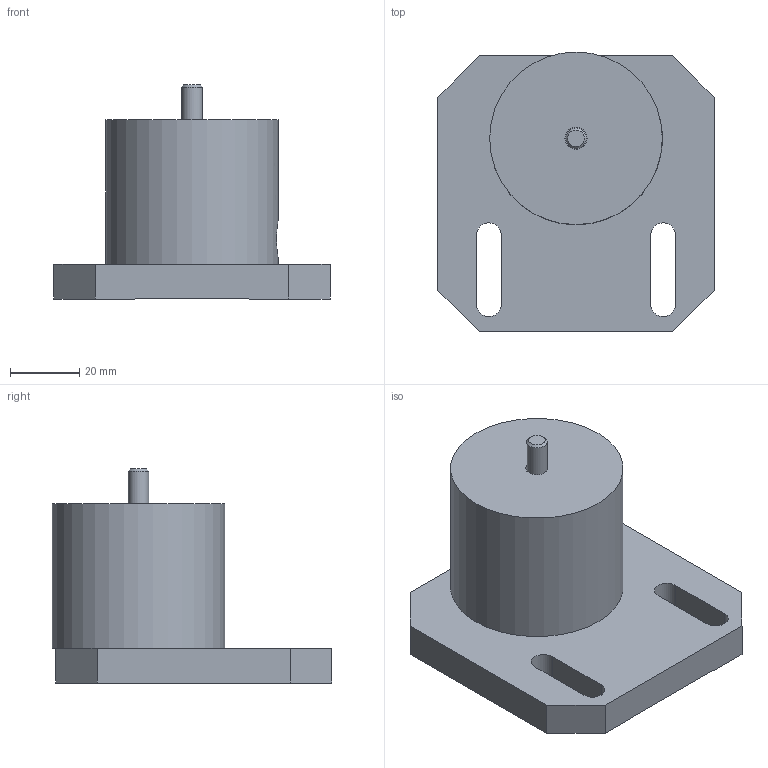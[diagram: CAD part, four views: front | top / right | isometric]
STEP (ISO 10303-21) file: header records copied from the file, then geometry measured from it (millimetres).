
FILE_DESCRIPTION(('Bauteilbeschreibung','HiCAD-Model','HiCAD-STEP-TRANSLATION','Bauteilbeschreibung'),'2;1');
FILE_NAME('D:/DATEN/HICAD/TRANSPORT/CAD_INTERNET_DOKU/404597_STEP.STP','2004-04-01T10:03:02+00:00',('Konstrukteur'),('Konstrukteur Firma GmbH'),'HiCAD2 V1102 STEP 20.9.2001','HiCAD2 V1102','confidential');
FILE_SCHEMA(('AUTOMOTIVE_DESIGN { 1 2 10303 214 0 1 1 1 }'));
Length unit declared in the file: millimetre
Products named in the file (7): A0010344; A0009023; A0009015; A0009026; A0010899; A00108990; MBBGEWFV
Assembly tree (6 placements, depth 3):
  A0010344
    A0009023
    A0009015
    A0009026
    A0010899
      A00108990
      MBBGEWFV
Bounding box: 80 x 81 x 62 mm (x, y, z)
Volume: 131739.5 mm3; surface area: 30244.8 mm2
Topology: 4 solids, 5 shells, 92 faces, 222 edges, 146 vertices
Faces by surface type: plane 58, cylinder 22, cone 12
Full cylindrical faces by diameter (mm): 4.7 x2, 4.773 x2, 6 x4, 6.4 x1, 9.3 x1, 10 x3, 50 x1
Entity records: 5135 total; most frequent: CARTESIAN_POINT 1276, DIRECTION 442, ORIENTED_EDGE 366, COLOUR_RGB 281, PRESENTATION_STYLE_ASSIGNMENT 281, OVER_RIDING_STYLED_ITEM 276, CURVE_STYLE 184, DRAUGHTING_PRE_DEFINED_CURVE_FONT 184
